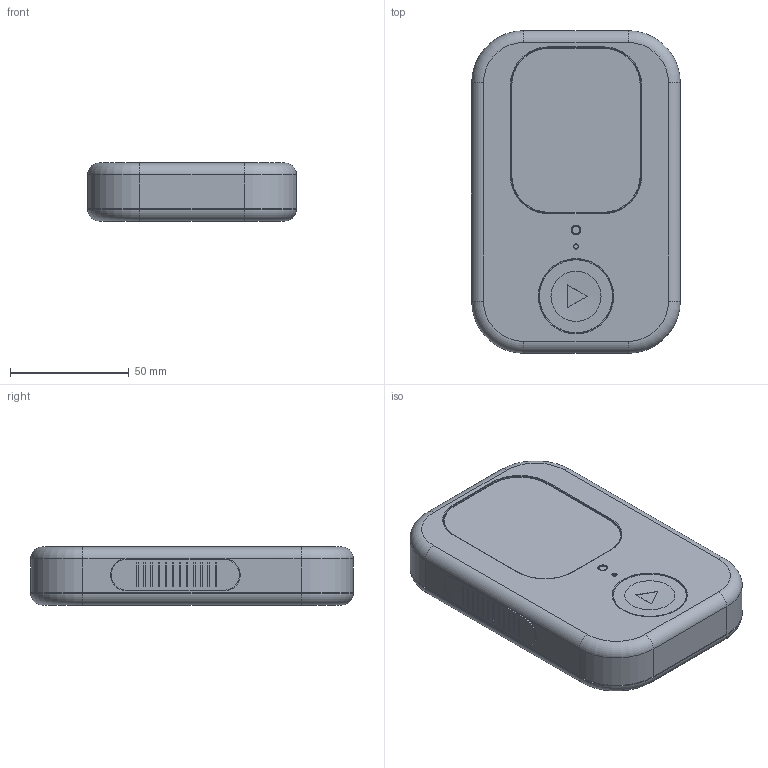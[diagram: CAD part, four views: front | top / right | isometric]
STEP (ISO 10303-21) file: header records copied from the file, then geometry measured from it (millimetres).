
FILE_DESCRIPTION(('Open CASCADE Model'),'2;1');
FILE_NAME('Open CASCADE Shape Model','2026-09-06T11:30:50',('Author'),( 'Open CASCADE'),'Open CASCADE STEP processor 7.7','Open CASCADE 7.7' ,'Unknown');
FILE_SCHEMA(('AUTOMOTIVE_DESIGN { 1 0 10303 214 1 1 1 1 }'));
Length unit declared in the file: millimetre
Products named in the file (68): Walkie_One_Concept_1_2_R8_CASE_ONLY; 12_volume_plus_switch_cradle; 12_volume_plus_switch_cradle_part; 01_front_structural_tub; 01_front_structural_tub_part; 15_play_switch_cradle; 15_play_switch_cradle_part; 12_ptt_switch_cradle; 12_ptt_switch_cradle_part; 11_ptt_silicone_cap; 11_ptt_silicone_cap_part; 11_volume_minus_silicone_cap; 11_volume_minus_silicone_cap_part; 06_woven_acoustic_insert; 06_woven_acoustic_insert_part; 19_microphone_gasket; 19_microphone_gasket_part; 07_speaker_cradle; 07_speaker_cradle_part; 10_ptt_plunger; 10_ptt_plunger_part; 20_LTE_bond_film; 20_LTE_bond_film_part; 13_play_plunger; 13_play_plunger_part; 05_grille_backing; 05_grille_backing_part; 16_LED_support; 16_LED_support_part; 10_volume_plus_plunger; 10_volume_plus_plunger_part; 03_front_silicone_skin; 03_front_silicone_skin_part; 14_play_silicone_face; 14_play_silicone_face_part; 09_battery_tray; 09_battery_tray_part; 12_volume_minus_switch_cradle; 12_volume_minus_switch_cradle_part; 08_speaker_gasket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
Assembly tree (67 placements, depth 4):
  Walkie_One_Concept_1_2_R8_CASE_ONLY
    Walkie_One_Concept_1_2_R8_CASE_ONLY
      12_volume_plus_switch_cradle
        12_volume_plus_switch_cradle_part
      01_front_structural_tub
        01_front_structural_tub_part
      15_play_switch_cradle
        15_play_switch_cradle_part
      12_ptt_switch_cradle
        12_ptt_switch_cradle_part
      11_ptt_silicone_cap
        11_ptt_silicone_cap_part
      11_volume_minus_silicone_cap
        11_volume_minus_silicone_cap_part
      06_woven_acoustic_insert
        06_woven_acoustic_insert_part
      19_microphone_gasket
        19_microphone_gasket_part
      07_speaker_cradle
        07_speaker_cradle_part
      10_ptt_plunger
        10_ptt_plunger_part
      20_LTE_bond_film
        20_LTE_bond_film_part
      13_play_plunger
        13_play_plunger_part
      05_grille_backing
        05_grille_backing_part
      16_LED_support
        16_LED_support_part
      10_volume_plus_plunger
        10_volume_plus_plunger_part
      03_front_silicone_skin
        03_front_silicone_skin_part
      14_play_silicone_face
        14_play_silicone_face_part
      09_battery_tray
        09_battery_tray_part
      12_volume_minus_switch_cradle
        12_volume_minus_switch_cradle_part
      08_speaker_gasket
        08_speaker_gasket_part
      04_rear_silicone_skin
        04_rear_silicone_skin_part
      10_volume_minus_plunger
        10_volume_minus_plunger_part
      02_rear_structural_cover
        02_rear_structural_cover_part
      11_volume_plus_silicone_cap
        11_volume_plus_silicone_cap_part
      18_microphone_cradle
        18_microphone_cradle_part
      24_play_calibration_shim
        24_play_calibration_shim_part
      28_play_stop_shims
        28_play_stop_shims_part
      29_play_return_cushions
        29_play_return_cushions_part
      25_textile_perimeter_bond
        25_textile_perimeter_bond_part
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Bounding box: 88.4 x 136 x 24.5 mm (x, y, z)
Volume: 80673.8 mm3; surface area: 157433.6 mm2
Topology: 38 solids, 38 shells, 1500 faces, 4141 edges, 2745 vertices
Faces by surface type: plane 992, cylinder 466, torus 39, sphere 3
Full cylindrical faces by diameter (mm): 1.6 x2, 1.8 x3, 2.2 x2, 2.8 x4, 3 x4, 3.012 x1, 3.1 x1, 3.3 x2, 3.7 x2, 4 x2, 4.3 x2, 4.4 x2, 5 x1, 5.3 x8, 5.6 x2, 5.8 x1, 6.2 x2, 8 x1, 30.8 x2, 31.4 x3, 33.9 x1, 36.4 x1, 39.6 x1
Entity records: 105948 total; most frequent: CARTESIAN_POINT 21827, DIRECTION 15560, LINE 9667, VECTOR 9667, ORIENTED_EDGE 8278, PCURVE 8278, DEFINITIONAL_REPRESENTATION 8278, EDGE_CURVE 4139
